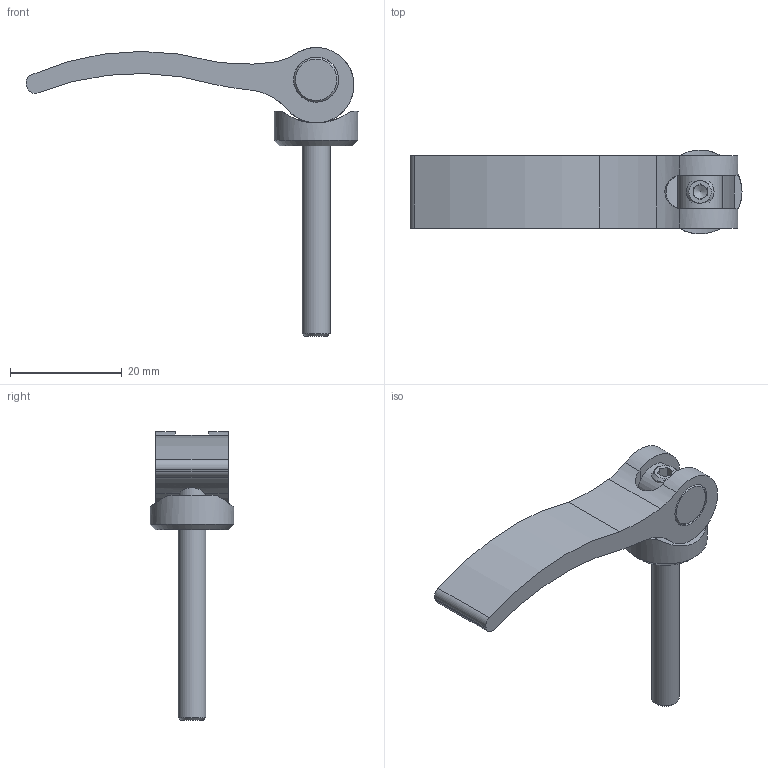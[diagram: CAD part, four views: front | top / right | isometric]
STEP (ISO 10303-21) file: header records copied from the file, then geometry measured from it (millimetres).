
FILE_DESCRIPTION(('STEP AP203'), '1');
FILE_NAME('À00360.11590520 _ Ýêñöåíòðèê 59 ìì', '', ('UNSPECIFIED'), ('UNSPECIFIED'), 'C3D Converter', 'C3D Toolkit', '');
FILE_SCHEMA(('CONFIG_CONTROL_DESIGN'));
Length unit declared in the file: millimetre
Products named in the file (5): А00360.59.03; А00360.59.02; А00360.59.01
Assembly tree (4 placements, depth 2):
  (unnamed)
    А00360.59.03
    А00360.59.02
    А00360.59.01
    (unnamed)
Bounding box: 59.48 x 14.99 x 51.75 mm (x, y, z)
Volume: 5384.2 mm3; surface area: 4398.8 mm2
Topology: 4 solids, 4 shells, 49 faces, 123 edges, 80 vertices
Faces by surface type: plane 24, cylinder 19, cone 6
Full cylindrical faces by diameter (mm): 4.134 x1, 5 x1, 5.5 x1, 8 x1, 8.1 x2, 15 x1
Entity records: 2556 total; most frequent: CARTESIAN_POINT 1041, DIRECTION 254, ORIENTED_EDGE 218, EDGE_CURVE 109, AXIS2_PLACEMENT_3D 105, VERTEX_POINT 79, EDGE_LOOP 68, FACE_BOUND 57
